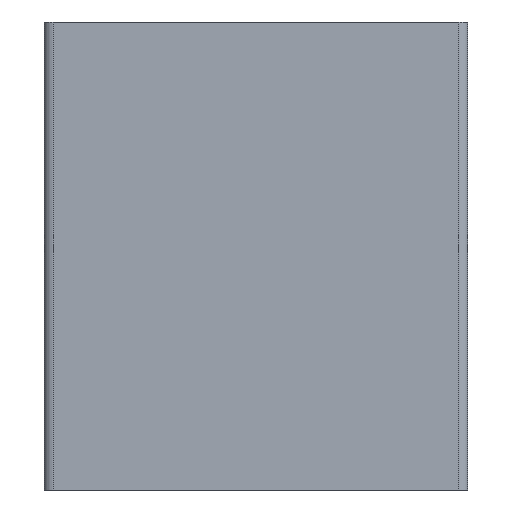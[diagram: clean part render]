
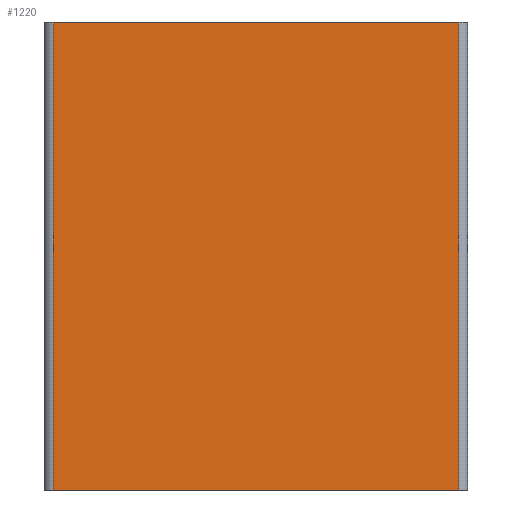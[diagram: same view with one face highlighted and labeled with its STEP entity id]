
A CAD part, left-side view. The second image highlights one B-rep face of the part: STEP entity #1220.
In plain terms, the highlighted planar face has unit normal (-1, 0, 0).
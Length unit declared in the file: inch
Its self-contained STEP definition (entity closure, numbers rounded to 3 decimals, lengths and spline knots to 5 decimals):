
#354=CARTESIAN_POINT('',(-0.88583,-0.21654,-0.5));
#355=VERTEX_POINT('',#354);
#363=CARTESIAN_POINT('',(-0.88583,0.64961,-0.5));
#364=VERTEX_POINT('',#363);
#365=CARTESIAN_POINT('',(-0.88583,0.64961,-0.5));
#366=DIRECTION('',(0.0,-1.0,0.0));
#367=VECTOR('',#366,0.86614);
#368=LINE('',#365,#367);
#369=EDGE_CURVE('',#364,#355,#368,.T.);
#1177=CARTESIAN_POINT('',(-0.88583,-0.21654,0.5));
#1178=VERTEX_POINT('',#1177);
#1186=CARTESIAN_POINT('',(-0.88583,-0.21654,-0.5));
#1187=DIRECTION('',(0.0,0.0,1.0));
#1188=VECTOR('',#1187,1.0);
#1189=LINE('',#1186,#1188);
#1190=EDGE_CURVE('',#355,#1178,#1189,.T.);
#1197=CARTESIAN_POINT('',(-0.88583,-0.21654,0.0));
#1198=DIRECTION('',(-1.0,0.0,0.0));
#1199=DIRECTION('',(0.0,0.0,1.0));
#1200=AXIS2_PLACEMENT_3D('',#1197,#1198,#1199);
#1201=PLANE('',#1200);
#1202=CARTESIAN_POINT('',(-0.88583,0.64961,0.5));
#1203=VERTEX_POINT('',#1202);
#1204=CARTESIAN_POINT('',(-0.88583,-0.21654,0.5));
#1205=DIRECTION('',(0.0,1.0,0.0));
#1206=VECTOR('',#1205,0.86614);
#1207=LINE('',#1204,#1206);
#1208=EDGE_CURVE('',#1178,#1203,#1207,.T.);
#1209=ORIENTED_EDGE('',*,*,#1208,.T.);
#1210=CARTESIAN_POINT('',(-0.88583,0.64961,-0.5));
#1211=DIRECTION('',(0.0,0.0,1.0));
#1212=VECTOR('',#1211,1.0);
#1213=LINE('',#1210,#1212);
#1214=EDGE_CURVE('',#364,#1203,#1213,.T.);
#1215=ORIENTED_EDGE('',*,*,#1214,.F.);
#1216=ORIENTED_EDGE('',*,*,#369,.T.);
#1217=ORIENTED_EDGE('',*,*,#1190,.T.);
#1218=EDGE_LOOP('',(#1209,#1215,#1216,#1217));
#1219=FACE_OUTER_BOUND('',#1218,.T.);
#1220=ADVANCED_FACE('',(#1219),#1201,.T.);
